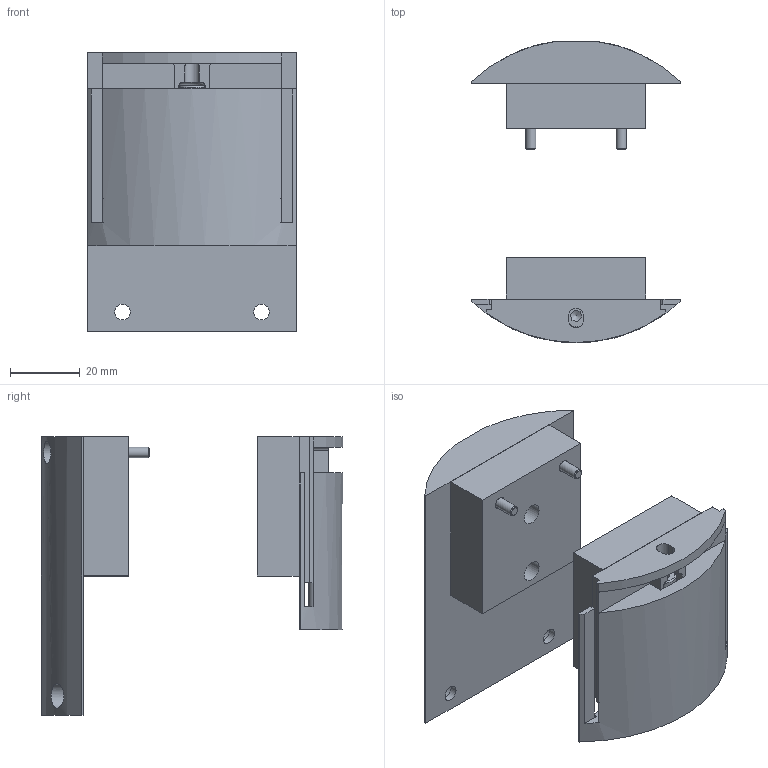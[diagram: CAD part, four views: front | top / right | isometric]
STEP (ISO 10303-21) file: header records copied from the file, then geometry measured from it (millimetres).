
FILE_DESCRIPTION(/* description */ ('Tělo krytu'),/* implementation_level */ '2;1');
FILE_NAME(/* name */ 'SUB-CH87-CMK-M05.stp',/* time_stamp */ '2026-05-07T11:59:56+02:00',/* author */ ('roman'),/* organization */ (''),/* preprocessor_version */ 'ST-DEVELOPER v20',/* originating_system */ 'Autodesk Inventor 2024',/* authorisation */ '');
FILE_SCHEMA (('AUTOMOTIVE_DESIGN { 1 0 10303 214 3 1 1 }'));
Length unit declared in the file: millimetre
Products named in the file (8): SUB-CH87-CMK-M05; CH87-CMK-FXP-M05; CH87-CMK-APT; CH87-CMK-FXP-R04; CH87-CMK-APH-M02; CH87-CMK-APH-R03; DIN 912 - M3 x 10; DIN 912 - M4 x 40
Assembly tree (12 placements, depth 2):
  SUB-CH87-CMK-M05
    CH87-CMK-FXP-M05
    CH87-CMK-APT
    CH87-CMK-FXP-R04
    CH87-CMK-APH-M02
    CH87-CMK-APH-R03
    DIN 912 - M3 x 10  x6
    DIN 912 - M4 x 40
Bounding box: 60.03 x 86.58 x 80 mm (x, y, z)
Volume: 104187.9 mm3; surface area: 38752.1 mm2
Topology: 12 solids, 12 shells, 242 faces, 595 edges, 390 vertices
Faces by surface type: plane 137, cylinder 59, cone 24, torus 22
Full cylindrical faces by diameter (mm): 2.459 x4, 3 x6, 3.242 x1, 3.5 x6, 4 x1, 4.5 x2, 5.5 x6, 6 x6, 6.5 x2, 7 x3
Entity records: 5491 total; most frequent: CARTESIAN_POINT 1046, DIRECTION 909, ORIENTED_EDGE 826, EDGE_CURVE 413, AXIS2_PLACEMENT_3D 331, VERTEX_POINT 270, LINE 247, VECTOR 247
